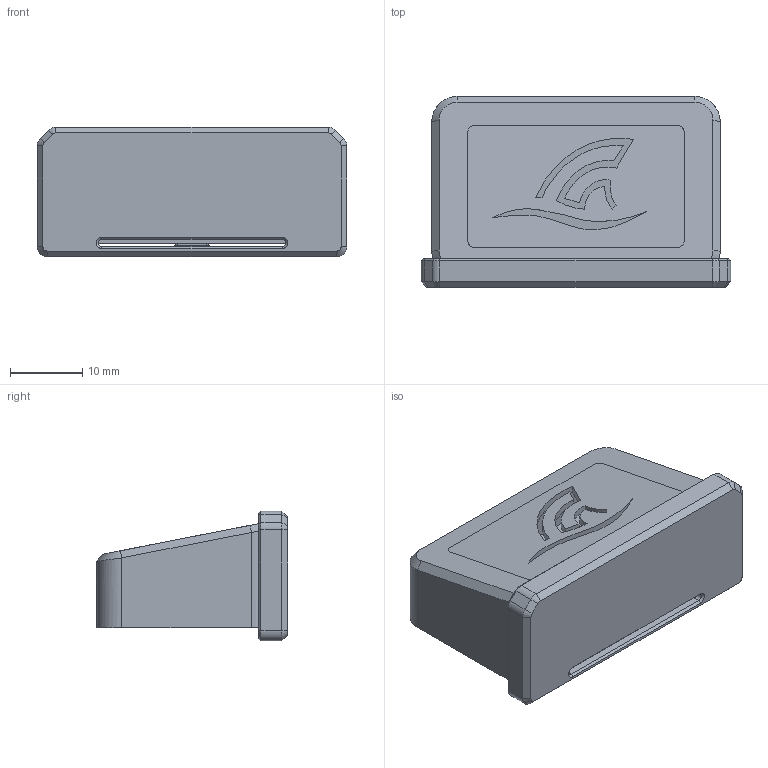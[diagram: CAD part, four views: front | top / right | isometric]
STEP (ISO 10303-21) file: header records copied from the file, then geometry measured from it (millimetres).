
FILE_DESCRIPTION(/* description */ ('AP-214 File'),/* implementation_level */ '2;1');
FILE_NAME(/* name */ 'Logo Box Case and Foot.stp',/* time_stamp */ '2025-03-29T11:02:19+01:00',/* author */ ('Johnny Banana'),/* organization */ (''),/* preprocessor_version */ 'ST-DEVELOPER v19.2',/* originating_system */ 'Autodesk Inventor 2024',/* authorisation */ '');
FILE_SCHEMA (('AUTOMOTIVE_DESIGN { 1 0 10303 214 3 1 1 }'));
Length unit declared in the file: millimetre
Products named in the file (1): Logo Box
Bounding box: 43 x 26.5 x 18.03 mm (x, y, z)
Volume: 6871.6 mm3; surface area: 9497 mm2
Topology: 4 solids, 4 shells, 188 faces, 487 edges, 308 vertices
Faces by surface type: plane 90, cylinder 55, bspline 25, cone 18
Full cylindrical faces by diameter (mm): 1.4 x2, 2 x2
Entity records: 7049 total; most frequent: CARTESIAN_POINT 2381, ORIENTED_EDGE 966, DIRECTION 875, EDGE_CURVE 483, VERTEX_POINT 308, LINE 299, VECTOR 299, AXIS2_PLACEMENT_3D 288
